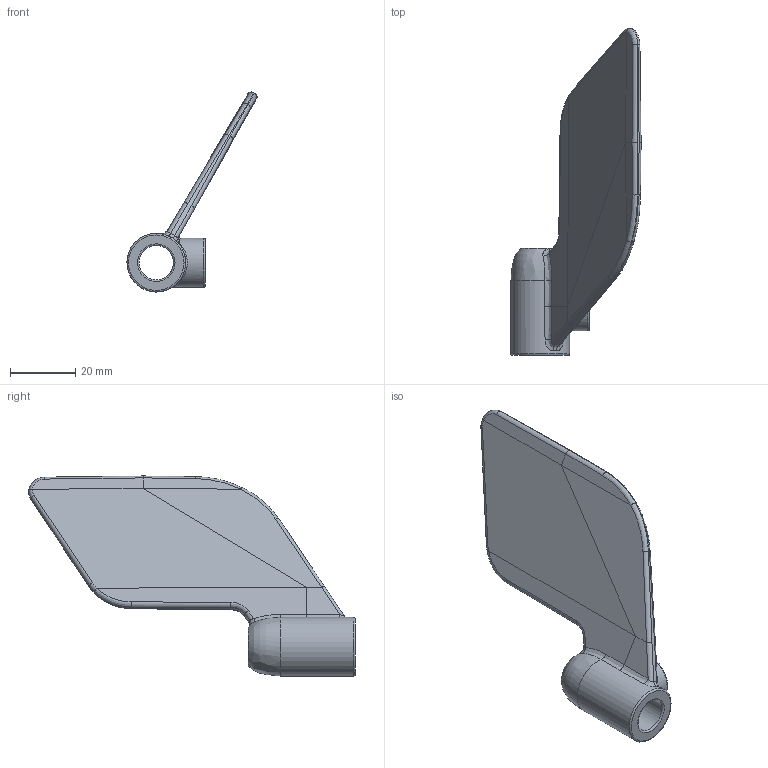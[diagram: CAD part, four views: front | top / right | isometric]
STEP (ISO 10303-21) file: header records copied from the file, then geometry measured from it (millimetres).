
FILE_DESCRIPTION(/* description */ ('ELICA COMPLETA AC4 PLASTICA - 1 PALA 60x100 '),/* implementation_level */ '2;1');
FILE_NAME(/* name */ 'AC4.stp',/* time_stamp */ '2024-03-22T10:34:58+01:00',/* author */ ('filippo.guidetti'),/* organization */ (''),/* preprocessor_version */ 'ST-DEVELOPER v20',/* originating_system */ 'Autodesk Inventor 2024',/* authorisation */ 'Giovanni Guazzetti');
FILE_SCHEMA (('AUTOMOTIVE_DESIGN { 1 0 10303 214 3 1 1 }'));
Length unit declared in the file: millimetre
Products named in the file (1): 0404_006_0
Bounding box: 39.88 x 100.04 x 61.28 mm (x, y, z)
Volume: 16354.6 mm3; surface area: 10659.5 mm2
Topology: 1 solids, 1 shells, 84 faces, 205 edges, 123 vertices
Faces by surface type: bspline 30, cylinder 24, plane 21, torus 9
Full cylindrical faces by diameter (mm): 4.8 x1, 10.5 x1, 11 x1, 15 x1, 18 x1
Entity records: 6014 total; most frequent: CARTESIAN_POINT 4103, ORIENTED_EDGE 410, DIRECTION 366, EDGE_CURVE 205, AXIS2_PLACEMENT_3D 156, VERTEX_POINT 123, EDGE_LOOP 88, FACE_OUTER_BOUND 84
